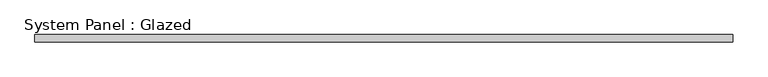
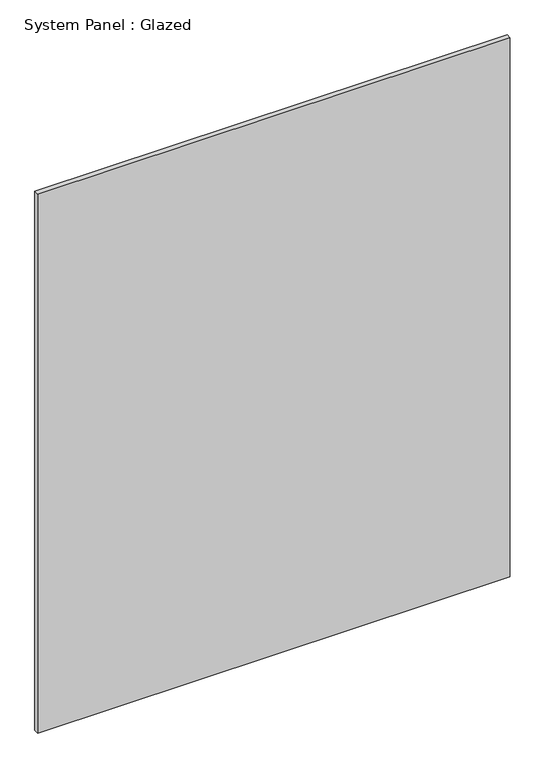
"""IFC4 building model written with IfcOpenShell, lengths in millimetres: plate geometry, System Panel : Glazed."""

from ifc_helpers import new_model, si_unit, origin, origin_with_axes, place, context, project, spatial, polyline, outline, extrude, source, transform, mapped, element, save


def system_panel_glazed_25cc98ba(model_context):
    return source(origin(), model_context, "Body", "SweptSolid", [
        extrude(outline(polyline([(1238.2500001, 19.05), (-1238.2500001, 19.05), (-1238.2500001, 44.45), (1238.2500001, 44.45), (1238.2500001, 19.05)])), origin_with_axes(), (0.0, 0.0, 1.0), 2984.5),
    ])


if __name__ == "__main__":
    model = new_model("IFC4")
    model_context = context("Model", 3, world=origin())
    ifc_project = project(units=[si_unit("LENGTHUNIT", "METRE", prefix="MILLI")], contexts=[model_context])
    site = spatial("IfcSite", under=ifc_project)
    building = spatial("IfcBuilding", under=site)
    placement = place(None, origin())
    system_panel_glazed_shape = system_panel_glazed_25cc98ba(model_context)
    element("IfcPlate", 1, ObjectType="System Panel : Glazed", at=placement, inside=building, context=model_context, shape_type="MappedRepresentation", body=[
        mapped(system_panel_glazed_shape, transform((0.0, 0.0, 0.0), x_axis=(1.0, 0.0, 0.0), y_axis=(0.0, 1.0, 0.0), z_axis=(0.0, 0.0, 1.0))),
    ])
    save(model, "model.ifc")
